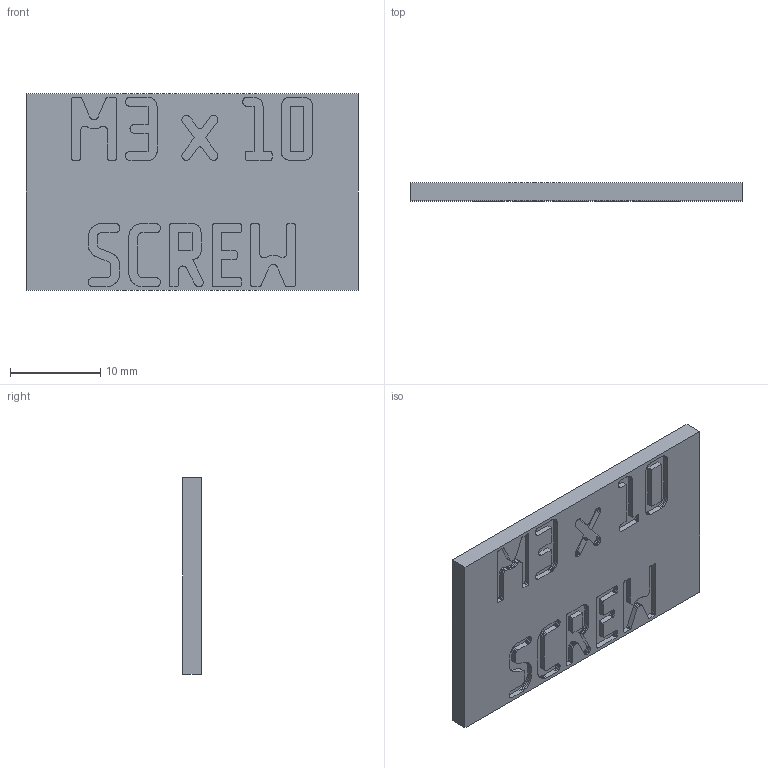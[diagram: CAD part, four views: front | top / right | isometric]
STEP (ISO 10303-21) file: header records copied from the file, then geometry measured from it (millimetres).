
FILE_DESCRIPTION(('Open CASCADE Model'),'2;1');
FILE_NAME('Open CASCADE Shape Model','2026-11-03T17:09:51',('Author'),( 'Open CASCADE'),'Open CASCADE STEP processor 8.0','build123d', 'Unknown');
FILE_SCHEMA(('AUTOMOTIVE_DESIGN { 1 0 10303 214 1 1 1 1 }'));
Length unit declared in the file: millimetre
Products named in the file (2): =>[0:1:1:2]; COMPOUND
Assembly tree (1 placements, depth 2):
  =>[0:1:1:2]
    COMPOUND
Bounding box: 36.8 x 2 x 21.8 mm (x, y, z)
Volume: 1518.8 mm3; surface area: 2006.4 mm2
Topology: 1 solids, 1 shells, 1080 faces, 3198 edges, 2132 vertices
Faces by surface type: plane 1080
Entity records: 76924 total; most frequent: CARTESIAN_POINT 12808, DIRECTION 11758, LINE 9594, VECTOR 9594, ORIENTED_EDGE 6396, PCURVE 6396, DEFINITIONAL_REPRESENTATION 6396, EDGE_CURVE 3198
